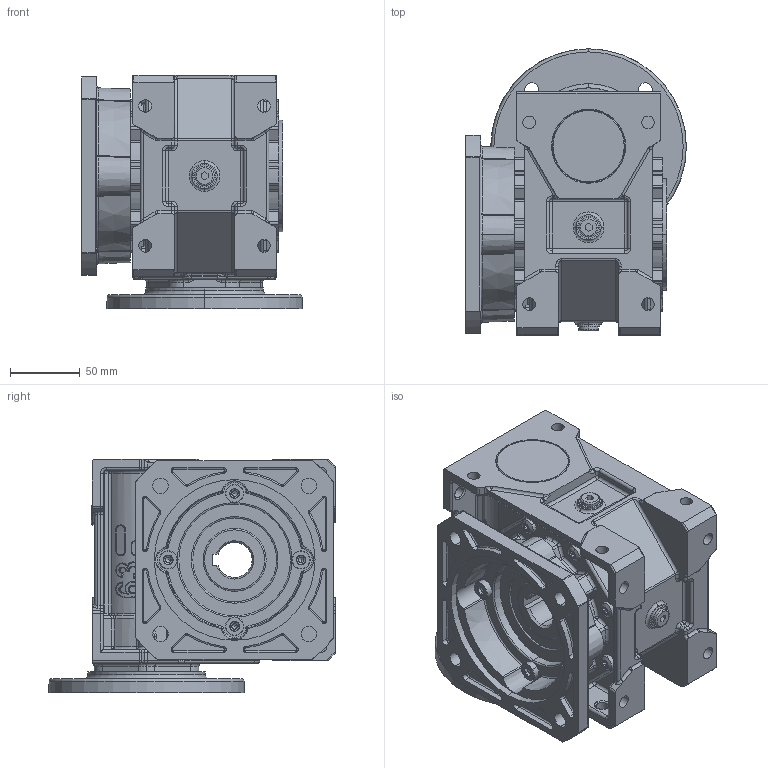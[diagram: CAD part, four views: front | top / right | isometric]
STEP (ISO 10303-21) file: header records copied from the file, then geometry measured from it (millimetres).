
FILE_DESCRIPTION (( 'STEP AP214' ), '1' );
FILE_NAME ('mkt63-80-115-ffr.step', '2017-09-08T10:14:00', ( '' ), ( '' ), 'SwSTEP 2.0', 'SolidWorks 2016', '' );
FILE_SCHEMA (( 'AUTOMOTIVE_DESIGN' ));
Length unit declared in the file: millimetre
Products named in the file (6): mkt63-80-115-ffr; D6912_æroub DIN 6912 - M6x25; Pøíruba MRT80 kulatá _95-115-140; D6912_æroub DIN 6912 - M8x25; Skrin MKT63_MKT63 AP80; Pøíruba FF MKT 63_odlitek
Assembly tree (13 placements, depth 2):
  mkt63-80-115-ffr
    Skrin MKT63_MKT63 AP80
    Pøíruba MRT80 kulatá _95-115-140
    D6912_æroub DIN 6912 - M6x25  x6
    Pøíruba FF MKT 63_odlitek
    D6912_æroub DIN 6912 - M8x25  x4
Bounding box: 158 x 205 x 167 mm (x, y, z)
Volume: 2269563.7 mm3; surface area: 290084.7 mm2
Topology: 13 solids, 13 shells, 2483 faces, 5848 edges, 3390 vertices
Faces by surface type: cylinder 940, plane 473, torus 438, cone 282, bspline 212, sphere 138
Entity records: 80847 total; most frequent: CARTESIAN_POINT 26772, DIRECTION 11353, ORIENTED_EDGE 10386, EDGE_CURVE 5193, AXIS2_PLACEMENT_3D 4785, VERTEX_POINT 3122, CIRCLE 2794, EDGE_LOOP 2363
